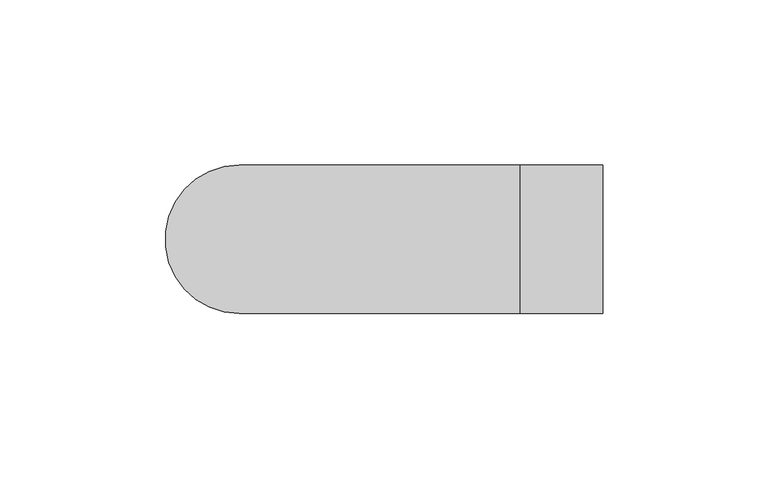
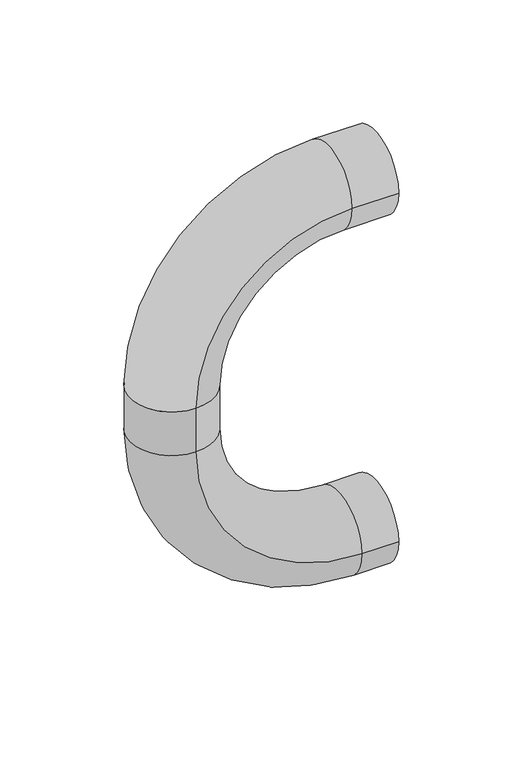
"""IFC4 building model written with IfcOpenShell, lengths in millimetres: proxy geometry, Terminaciones 2 : Terminaciones 1."""

from ifc_helpers import new_model, si_unit, point, frame, origin, place, context, project, spatial, circle_curve, ellipse_curve, trimmed, source, transform, mapped, element, save
from ifc_brep_helpers import plane_surface, cylinder_surface, revolved_surface, advanced_brep


def building_element_proxy_c94f48aa(model_context):
    return source(origin(), model_context, "Body", "AdvancedBrep", [
        advanced_brep(
        [(-8723.5949598, 2011.1072273, 697.5), (-8723.5949598, 1966.1072273, 697.5), (-8748.5949598, 2011.1072273, 697.5), (-8748.5949598, 1966.1072273, 697.5), (-8833.5949598, 1966.1072273, 612.5), (-8833.5949598, 2011.1072273, 612.5), (-8833.5949598, 2011.1072273, 587.5), (-8833.5949598, 1966.1072273, 587.5), (-8743.5949598, 1966.1072273, 497.5), (-8743.5949598, 2011.1072273, 497.5), (-8723.5949598, 2011.1072273, 497.5), (-8723.5949598, 1966.1072273, 497.5)],
        [
            (0, 1, circle_curve(frame((-8723.5949598, 1988.6072273, 697.5), z_axis=(1.0, 0.0, 0.0), x_axis=(0.0, -1.0, 0.0)), 22.5)),
            (1, 0, circle_curve(frame((-8723.5949598, 1988.6072273, 697.5), z_axis=(1.0, 0.0, 0.0), x_axis=(0.0, -1.0, 0.0)), 22.5)),
            (0, 2),
            (2, 3, circle_curve(frame((-8748.5949598, 1988.6072273, 697.5), z_axis=(1.0, 0.0, 0.0), x_axis=(0.0, -1.0, 0.0)), 22.5)),
            (3, 1),
            (3, 2, circle_curve(frame((-8748.5949598, 1988.6072273, 697.5), z_axis=(1.0, 0.0, 0.0), x_axis=(0.0, -1.0, 0.0)), 22.5)),
            (4, 3, circle_curve(frame((-8748.5949598, 1966.1072273, 612.5), z_axis=(0.0, 1.0, 0.0), x_axis=(0.0, 0.0, 1.0)), 85.0)),
            (2, 5, circle_curve(frame((-8748.5949598, 2011.1072273, 612.5), z_axis=(0.0, -1.0, 0.0), x_axis=(0.0, 0.0, 1.0)), 85.0)),
            (5, 4, circle_curve(frame((-8833.5949598, 1988.6072273, 612.5), z_axis=(0.0, 0.0, 1.0), x_axis=(0.0, -1.0, 0.0)), 22.5)),
            (4, 5, circle_curve(frame((-8833.5949598, 1988.6072273, 612.5), z_axis=(0.0, 0.0, 1.0), x_axis=(0.0, -1.0, 0.0)), 22.5)),
            (5, 6),
            (6, 7, circle_curve(frame((-8833.5949598, 1988.6072273, 587.5), z_axis=(0.0, 0.0, 1.0), x_axis=(0.0, -1.0, 0.0)), 22.5)),
            (7, 4),
            (7, 6, circle_curve(frame((-8833.5949598, 1988.6072273, 587.5), z_axis=(0.0, 0.0, 1.0), x_axis=(0.0, -1.0, 0.0)), 22.5)),
            (8, 7, circle_curve(frame((-8743.5949598, 1966.1072273, 587.5), z_axis=(0.0, 1.0, 0.0), x_axis=(-1.0, 0.0, 0.0)), 90.0)),
            (6, 9, circle_curve(frame((-8743.5949598, 2011.1072273, 587.5), z_axis=(0.0, -1.0, 0.0), x_axis=(-1.0, 0.0, 0.0)), 90.0)),
            (9, 8, circle_curve(frame((-8743.5949598, 1988.6072273, 497.5), z_axis=(-1.0, 0.0, 0.0), x_axis=(0.0, -1.0, 0.0)), 22.5)),
            (8, 9, circle_curve(frame((-8743.5949598, 1988.6072273, 497.5), z_axis=(-1.0, 0.0, 0.0), x_axis=(0.0, -1.0, 0.0)), 22.5)),
            (10, 11, circle_curve(frame((-8723.5949598, 1988.6072273, 497.5), z_axis=(1.0, 0.0, 0.0), x_axis=(0.0, -1.0, 0.0)), 22.5)),
            (11, 10, circle_curve(frame((-8723.5949598, 1988.6072273, 497.5), z_axis=(1.0, 0.0, 0.0), x_axis=(0.0, -1.0, 0.0)), 22.5)),
            (9, 10),
            (11, 8),
        ],
        [
            plane_surface(frame((-8723.5949598, 1988.6072273, 697.5), z_axis=(1.0, 0.0, 0.0), x_axis=(0.0, -1.0, 0.0))),
            cylinder_surface(frame((-8723.5949598, 1988.6072273, 697.5), z_axis=(1.0, 0.0, 0.0), x_axis=(0.0, -1.0, 0.0)), 22.5),
            revolved_surface(trimmed(ellipse_curve(frame((-8748.5949598, 1988.6072273, 697.5), z_axis=(1.0, 0.0, 0.0), x_axis=(0.0, -1.0, 0.0)), 22.5, 22.5), [point((-8748.5949598, 2011.1072273, 697.5))], [point((-8748.5949598, 1966.1072273, 697.5))], True, "CARTESIAN"), (-8748.5949598, 1988.6072273, 612.5), (0.0, -1.0, 0.0)),
            revolved_surface(trimmed(ellipse_curve(frame((-8748.5949598, 1988.6072273, 697.5), z_axis=(1.0, 0.0, 0.0), x_axis=(0.0, -1.0, 0.0)), 22.5, 22.5), [point((-8748.5949598, 1966.1072273, 697.5))], [point((-8748.5949598, 2011.1072273, 697.5))], True, "CARTESIAN"), (-8748.5949598, 1988.6072273, 612.5), (0.0, -1.0, 0.0)),
            cylinder_surface(frame((-8833.5949598, 1988.6072273, 612.5), z_axis=(0.0, 0.0, 1.0), x_axis=(0.0, -1.0, 0.0)), 22.5),
            revolved_surface(trimmed(ellipse_curve(frame((-8833.5949598, 1988.6072273, 587.5), z_axis=(0.0, 0.0, 1.0), x_axis=(0.0, -1.0, 0.0)), 22.5, 22.5), [point((-8833.5949598, 2011.1072273, 587.5))], [point((-8833.5949598, 1966.1072273, 587.5))], True, "CARTESIAN"), (-8743.5949598, 1988.6072273, 587.5), (0.0, -1.0, 0.0)),
            revolved_surface(trimmed(ellipse_curve(frame((-8833.5949598, 1988.6072273, 587.5), z_axis=(0.0, 0.0, 1.0), x_axis=(0.0, -1.0, 0.0)), 22.5, 22.5), [point((-8833.5949598, 1966.1072273, 587.5))], [point((-8833.5949598, 2011.1072273, 587.5))], True, "CARTESIAN"), (-8743.5949598, 1988.6072273, 587.5), (0.0, -1.0, 0.0)),
            plane_surface(frame((-8723.5949598, 1988.6072273, 497.5), z_axis=(1.0, 0.0, 0.0), x_axis=(0.0, -1.0, 0.0))),
            cylinder_surface(frame((-8743.5949598, 1988.6072273, 497.5), z_axis=(-1.0, 0.0, 0.0), x_axis=(0.0, -1.0, 0.0)), 22.5),
        ],
        [
            (0, [[1, 2]]),
            (1, [[-1, 3, 4, 5]]),
            (1, [[-2, -5, 6, -3]]),
            (2, [[7, -4, 8, 9]]),
            (3, [[-8, -6, -7, 10]]),
            (4, [[-9, 11, 12, 13]]),
            (4, [[-10, -13, 14, -11]]),
            (5, [[15, -12, 16, 17]]),
            (6, [[-16, -14, -15, 18]]),
            (7, [[19, 20]]),
            (8, [[-17, 21, -20, 22]]),
            (8, [[-18, -22, -19, -21]]),
        ],
    ),
    ])


if __name__ == "__main__":
    model = new_model("IFC4")
    model_context = context("Model", 3, world=origin())
    ifc_project = project(units=[si_unit("LENGTHUNIT", "METRE", prefix="MILLI")], contexts=[model_context])
    site = spatial("IfcSite", under=ifc_project)
    building = spatial("IfcBuilding", under=site)
    placement = place(None, origin())
    building_element_proxy_shape = building_element_proxy_c94f48aa(model_context)
    element("IfcBuildingElementProxy", 1, Name="Terminaciones 2 : Terminaciones 1", ObjectType="Terminaciones 2 : Terminaciones 1", at=placement, inside=building, context=model_context, shape_type="MappedRepresentation", body=[
        mapped(building_element_proxy_shape, transform((0.0, 0.0, 0.0), x_axis=(1.0, 0.0, 0.0), y_axis=(0.0, 1.0, 0.0), z_axis=(0.0, 0.0, 1.0))),
    ])
    save(model, "model.ifc")
